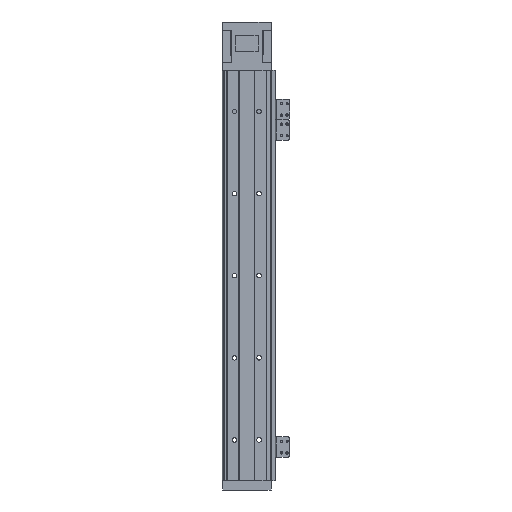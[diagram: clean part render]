
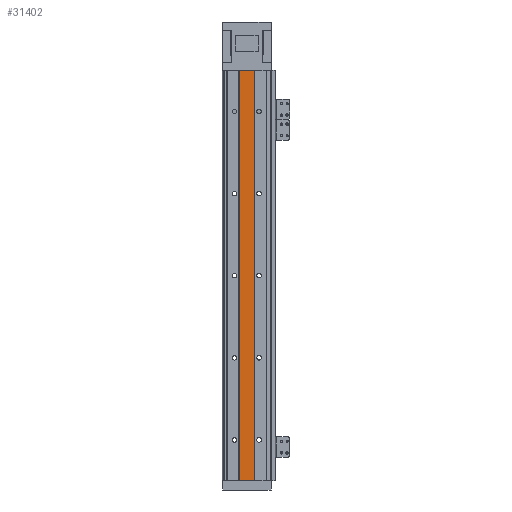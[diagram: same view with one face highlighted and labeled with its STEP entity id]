
A CAD part, front view. The second image highlights one B-rep face of the part: STEP entity #31402.
In plain terms, the highlighted planar face has unit normal (0, -1, 0).
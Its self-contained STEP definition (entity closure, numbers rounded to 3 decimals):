
#3655 = CARTESIAN_POINT ( 'NONE',  ( -20.745, 19.907, 0. ) ) ;
#3859 = LINE ( 'NONE', #38201, #16509 ) ;
#4833 = AXIS2_PLACEMENT_3D ( 'NONE', #45036, #24172, #10417 ) ;
#4882 = VERTEX_POINT ( 'NONE', #10508 ) ;
#5641 = FACE_OUTER_BOUND ( 'NONE', #36202, .T. ) ;
#5749 = DIRECTION ( 'NONE',  ( 1., 0., 0. ) ) ;
#8030 = EDGE_CURVE ( 'NONE', #18788, #15256, #35875, .T. ) ;
#10345 = CARTESIAN_POINT ( 'NONE',  ( -20.745, 19.907, 500. ) ) ;
#10417 = DIRECTION ( 'NONE',  ( 0., 0., 1. ) ) ;
#10508 = CARTESIAN_POINT ( 'NONE',  ( -2.845, 19.907, 0. ) ) ;
#11894 = CARTESIAN_POINT ( 'NONE',  ( -20.745, 19.907, 500. ) ) ;
#13727 = ORIENTED_EDGE ( 'NONE', *, *, #15987, .F. ) ;
#14897 = VECTOR ( 'NONE', #42237, 1000. ) ;
#15256 = VERTEX_POINT ( 'NONE', #42913 ) ;
#15987 = EDGE_CURVE ( 'NONE', #36974, #18788, #45466, .T. ) ;
#16509 = VECTOR ( 'NONE', #31410, 1000. ) ;
#16889 = PLANE ( 'NONE',  #4833 ) ;
#17127 = VECTOR ( 'NONE', #5749, 1000. ) ;
#17302 = DIRECTION ( 'NONE',  ( 0., 0., 1. ) ) ;
#18788 = VERTEX_POINT ( 'NONE', #11894 ) ;
#19541 = EDGE_CURVE ( 'NONE', #4882, #36974, #33621, .T. ) ;
#22946 = ORIENTED_EDGE ( 'NONE', *, *, #8030, .F. ) ;
#24172 = DIRECTION ( 'NONE',  ( 0., 1., 0. ) ) ;
#29076 = ORIENTED_EDGE ( 'NONE', *, *, #33271, .F. ) ;
#30184 = CARTESIAN_POINT ( 'NONE',  ( -20.745, 19.907, 500. ) ) ;
#31402 = ADVANCED_FACE ( 'NONE', ( #5641 ), #16889, .F. ) ;
#31410 = DIRECTION ( 'NONE',  ( 0., 0., -1. ) ) ;
#32023 = CARTESIAN_POINT ( 'NONE',  ( -20.745, 19.907, 0. ) ) ;
#33271 = EDGE_CURVE ( 'NONE', #15256, #4882, #3859, .T. ) ;
#33621 = LINE ( 'NONE', #3655, #14897 ) ;
#34294 = ORIENTED_EDGE ( 'NONE', *, *, #19541, .F. ) ;
#35875 = LINE ( 'NONE', #30184, #17127 ) ;
#36202 = EDGE_LOOP ( 'NONE', ( #29076, #22946, #13727, #34294 ) ) ;
#36676 = VECTOR ( 'NONE', #17302, 1000. ) ;
#36974 = VERTEX_POINT ( 'NONE', #32023 ) ;
#38201 = CARTESIAN_POINT ( 'NONE',  ( -2.845, 19.907, 500. ) ) ;
#42237 = DIRECTION ( 'NONE',  ( -1., 0., 0. ) ) ;
#42913 = CARTESIAN_POINT ( 'NONE',  ( -2.845, 19.907, 500. ) ) ;
#45036 = CARTESIAN_POINT ( 'NONE',  ( -20.745, 19.907, 500. ) ) ;
#45466 = LINE ( 'NONE', #10345, #36676 ) ;
